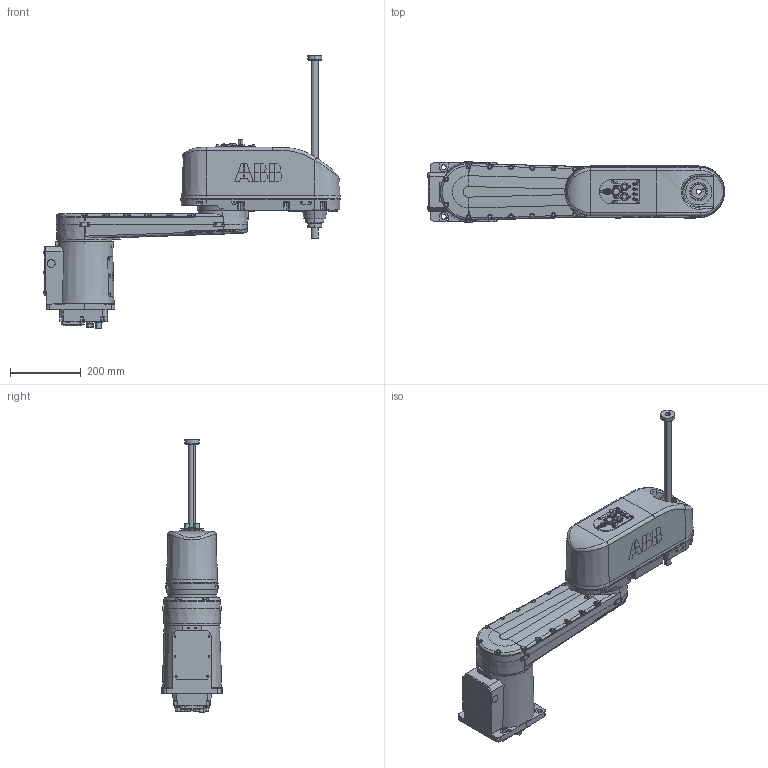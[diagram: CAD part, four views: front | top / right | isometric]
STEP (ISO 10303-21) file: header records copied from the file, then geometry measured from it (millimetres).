
FILE_DESCRIPTION (( 'STEP AP214' ), '1' );
FILE_NAME ('IRB920T_6kg-650-300-BTM_OmniCore_rev00_Assembly.step', '2021-08-23T03:30:01', ( '' ), ( '' ), 'SwSTEP 2.0', 'SolidWorks 2018', '' );
FILE_SCHEMA (( 'AUTOMOTIVE_DESIGN' ));
Length unit declared in the file: millimetre
Products named in the file (5): IRB920T_6kg-650-300-BTM_OmniCore_rev00_LINK1_CAD; IRB920T_6kg-650-300-BTM_OmniCore_rev00_LINK3_CAD; IRB920T_6kg-650-300-BTM_OmniCore_rev00_LINK2_CAD; IRB920T_6kg-650-300-BTM_OmniCore_rev00_LINK0_CAD; IRB920T_6kg-650-300-BTM_OmniCore_rev00_Assembly
Assembly tree (4 placements, depth 2):
  IRB920T_6kg-650-300-BTM_OmniCore_rev00_Assembly
    IRB920T_6kg-650-300-BTM_OmniCore_rev00_LINK0_CAD
    IRB920T_6kg-650-300-BTM_OmniCore_rev00_LINK1_CAD
    IRB920T_6kg-650-300-BTM_OmniCore_rev00_LINK2_CAD
    IRB920T_6kg-650-300-BTM_OmniCore_rev00_LINK3_CAD
Bounding box: 839 x 170 x 769.33 mm (x, y, z)
Volume: 20185103.1 mm3; surface area: 843633.1 mm2
Topology: 4 solids, 6 shells, 2268 faces, 5801 edges, 3768 vertices
Faces by surface type: plane 1224, cylinder 412, bspline 383, cone 235, torus 12, sphere 2
Entity records: 91586 total; most frequent: CARTESIAN_POINT 37206, ORIENTED_EDGE 11460, DIRECTION 9100, EDGE_CURVE 5730, VERTEX_POINT 3768, VECTOR 3410, LINE 3410, AXIS2_PLACEMENT_3D 2845
